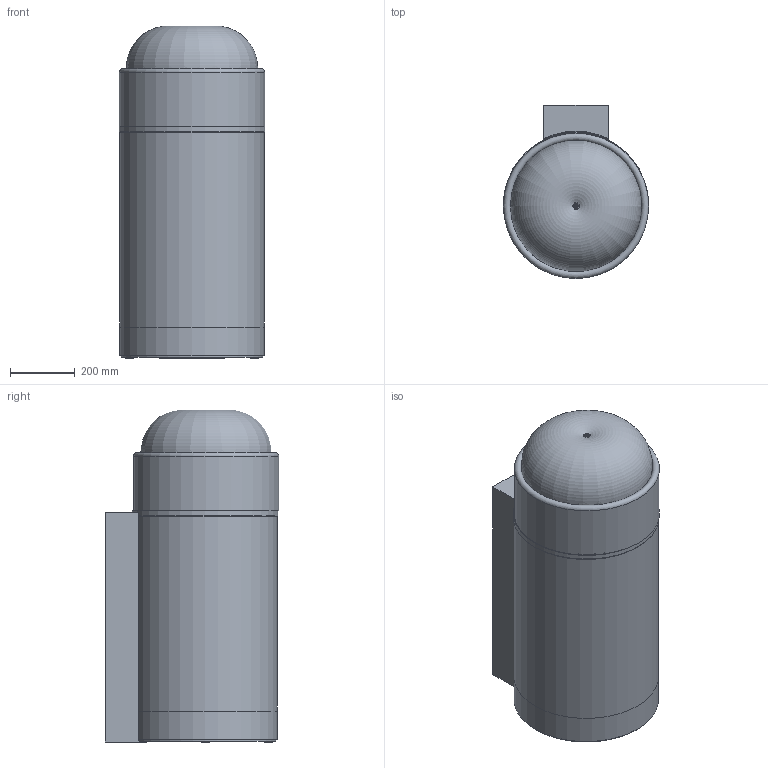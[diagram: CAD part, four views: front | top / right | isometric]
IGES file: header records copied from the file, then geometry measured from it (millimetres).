
Start section: Data from Parasolid IGES Translator 22.0.50, Copyright(c) 2006 Siemens P LM Software. All Rights Reserved.
Global section: file name: noorth-washbasin-H 88 D 45 W 45_5295.igs; native system: By Siemens PLM Incorporated; preprocessor: XPlus GENERIC/IGES 22.0.50; author: Noname; organization: Noname; date: 20240826.214247; units: metre
Bounding box: 451 x 536.9 x 1028.78 mm (x, y, z)
Volume: 87841464.7 mm3; surface area: 4179256.1 mm2
Topology: 12 solids, 12 shells, 72 faces, 108 edges, 69 vertices
Faces by surface type: plane 36, cylinder 28, torus 7, cone 1
Full cylindrical faces by diameter (mm): 25 x4, 50.25 x1, 55.712 x1, 61.989 x1, 150 x1, 200 x1, 250 x1, 417 x1, 429 x2, 429.156 x1, 437 x5, 437.156 x1, 442.06 x1, 447 x4, 449.8 x1, 451 x1
